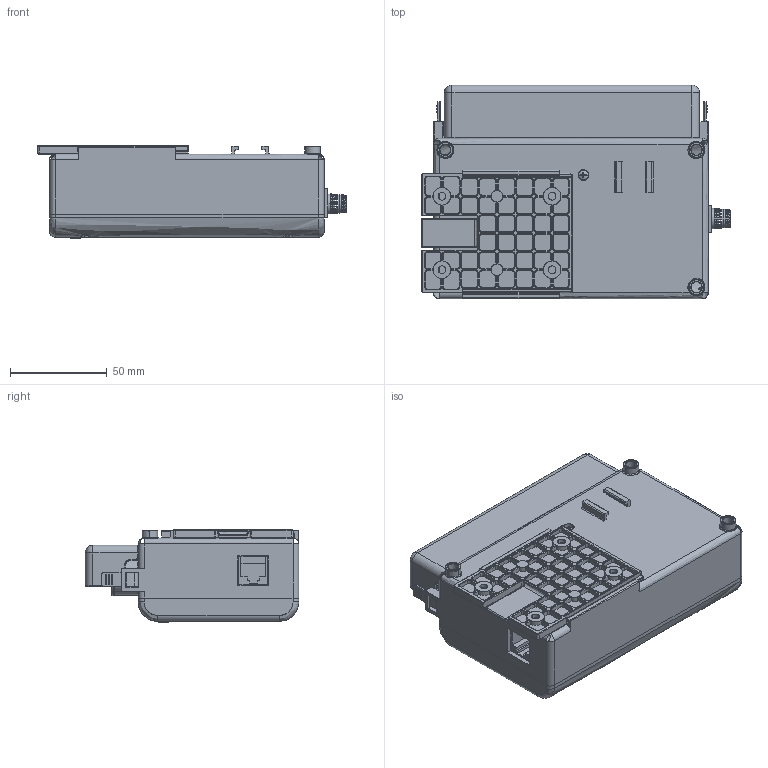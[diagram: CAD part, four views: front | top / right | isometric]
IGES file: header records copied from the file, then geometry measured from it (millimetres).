
Start section: SolidWorks IGES file using analytic representation for surfaces
Global section: file name: C:\Users\USER\Desktop\CS2-BT-YOU.IGS; native system: SolidWorks 2020; preprocessor: SolidWorks 2020; author: USER; date: 220728.105531; units: millimetre
Bounding box: 159.7 x 110.5 x 47.8 mm (x, y, z)
Surface area: 80668.3 mm2 (no closed solid volume)
Topology: 0 solids, 0 shells, 1332 faces, 13226 edges, 13221 vertices
Faces by surface type: bspline 728, revolution 604
